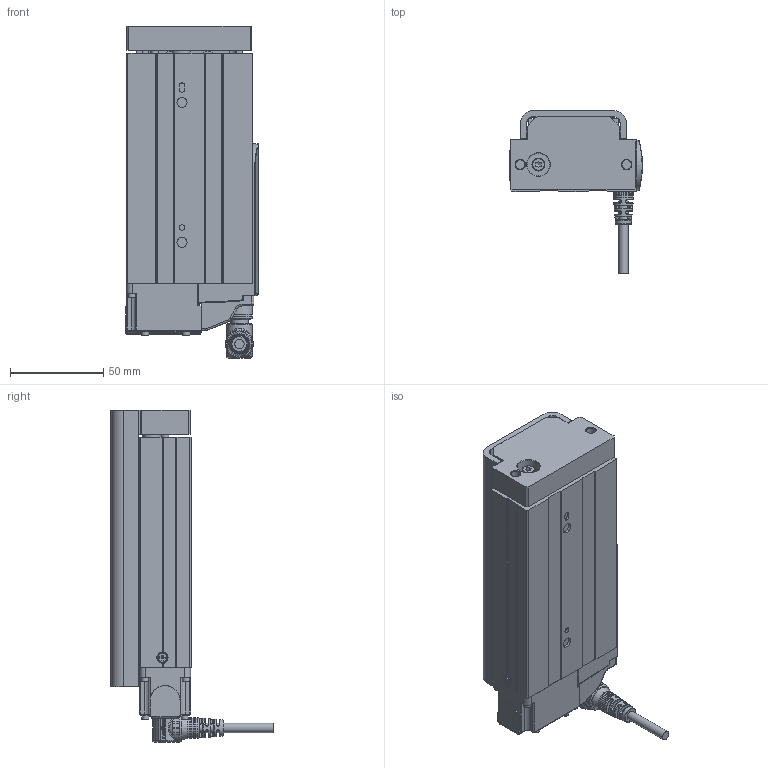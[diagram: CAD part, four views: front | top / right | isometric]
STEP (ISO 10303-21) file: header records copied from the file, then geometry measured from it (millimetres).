
FILE_DESCRIPTION(/* description */ ('STEP AP203'),/* implementation_level */ '2;1');
FILE_NAME(/* name */ 'D:\暫\2025.02.06 CSG 3D\CSG25-B\CSG25-S75-B-WM.stp',/* time_stamp */ '2025-02-08T10:36:42+08:00',/* author */ ('T10033'),/* organization */ (''),/* preprocessor_version */ 'ST-DEVELOPER v18.1',/* originating_system */ 'Autodesk Inventor 2020',/* authorisation */ '');
FILE_SCHEMA (('CONFIG_CONTROL_DESIGN'));
Products named in the file (26): CSG25-50行程-煞車; ©T©wªO-·¥­­¾×ª
O4-M2¤ú; M12 -14PIN  ªOºÝ-²Ä¤@ºØ
³W®æ; countersunk flat head cross recess screw_iso_ISO 7046-1 - M2.5 x 4 - 
Z - 4N; ¶ì½¦ºÝ»-L¼Ë¦¡(TOYO)-°
t¦XPCB(·Ù¨®¥Î)-DF3±µÀYª½
±µ©ñ¤Jª©; IS 2269 - M2 x 10; ISO 4762 - M2.5 x 6ISO; PCB; 43T34 TFSDR_Shrinkwrap_1; M12-14PIN 線端90度接頭-05中繼線; T632T6W34; 22035-000061(G4ªo¯]); countersunk flat head cross recess screw_iso_ISO 7046-1 - M2.5 x 4 - 
Z - 4N_1; ©T©wªO-·¥­­¾×ª
O4-M2¤ú_1; socket head cap screw_iso_ISO 4762 M2.5 x 6 - 6N; socket head cap screw_iso_ISO 4762 M2.5 x 8 - 8N; socket head cap screw_iso_ISO 4762 M2 x 12 - 12N; M12 -14PIN  ªOºÝ-²Ä¤@ºØ
³W®æ_1; CSG25-50¥»Åé3ª©-ªo¤Õ
½Õ¾ã¨¤«×; CSG25-Carriage-newtype; Solid1-2; 12003-000221-­×§ï; 22024-000496; CNS 3932 - M 4 x 0.7 x 12; socket head cap screw_iso_ISO 4762 M2.5 x 5 - 5N; CNS 4558 - M5 x 0.8 x 12
Assembly tree (37 placements, depth 3):
  CSG25-50行程-煞車
    ©T©wªO-·¥­­¾×ª
O4-M2¤ú
    M12 -14PIN  ªOºÝ-²Ä¤@ºØ
³W®æ
    countersunk flat head cross recess screw_iso_ISO 7046-1 - M2.5 x 4 - 
Z - 4N
    ¶ì½¦ºÝ»-L¼Ë¦¡(TOYO)-°
t¦XPCB(·Ù¨®¥Î)-DF3±µÀYª½
±µ©ñ¤Jª©
    IS 2269 - M2 x 10  x2
    ISO 4762 - M2.5 x 6ISO  x2
    PCB
    43T34 TFSDR_Shrinkwrap_1
    M12-14PIN 線端90度接頭-05中繼線
    T632T6W34
      22035-000061(G4ªo¯])
      socket head cap screw_iso_ISO 4762 M2.5 x 8 - 8N  x8
      countersunk flat head cross recess screw_iso_ISO 7046-1 - M2.5 x 4 - 
Z - 4N_1
      ©T©wªO-·¥­­¾×ª
O4-M2¤ú_1
      socket head cap screw_iso_ISO 4762 M2.5 x 6 - 6N  x2
      socket head cap screw_iso_ISO 4762 M2 x 12 - 12N  x2
      M12 -14PIN  ªOºÝ-²Ä¤@ºØ
³W®æ_1
      CSG25-50¥»Åé3ª©-ªo¤Õ
½Õ¾ã¨¤«×
      CSG25-Carriage-newtype
      Solid1-2
      12003-000221-­×§ï
      22024-000496
      CNS 3932 - M 4 x 0.7 x 12
      socket head cap screw_iso_ISO 4762 M2.5 x 5 - 5N
      CNS 4558 - M5 x 0.8 x 12  x2
Bounding box: 71.25 x 87.53 x 178 mm (x, y, z)
Volume: 362670.9 mm3; surface area: 99792.2 mm2
Topology: 51 solids, 60 shells, 3197 faces, 8687 edges, 5741 vertices
Faces by surface type: plane 1592, cylinder 629, bspline 482, cone 334, torus 147, sphere 13
Full cylindrical faces by diameter (mm): 0.6 x28, 0.65 x14, 1 x14, 1.567 x1, 1.6 x4, 2 x6, 2.05 x5, 2.5 x20, 2.9 x2, 3 x3, 3.8 x10, 4 x1, 4.134 x8, 4.5 x15, 4.7 x2, 4.95 x1, 5 x7, 5.2 x1, 5.3 x2, 5.4 x4, 5.5 x4, 6 x3, 7 x1, 8 x1, 8.9 x1, 9 x12, 9.5 x2, 9.6 x1, 10 x6, 10.4 x2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
Entity records: 121804 total; most frequent: CARTESIAN_POINT 44702, ORIENTED_EDGE 16105, DIRECTION 14952, EDGE_CURVE 8071, AXIS2_PLACEMENT_3D 5423, VERTEX_POINT 5362, LINE 4106, VECTOR 4106
